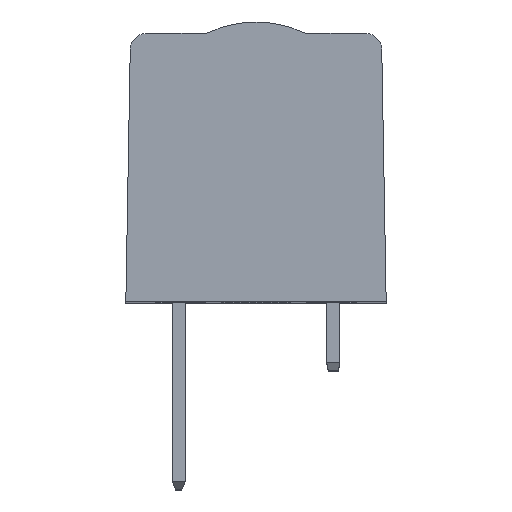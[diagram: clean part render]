
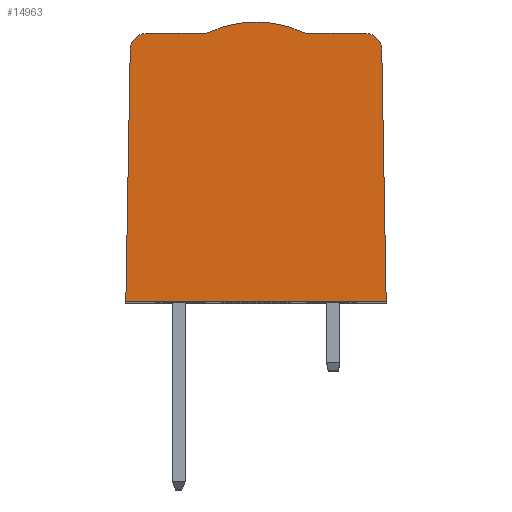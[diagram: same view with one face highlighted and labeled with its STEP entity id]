
A CAD part, top view. The second image highlights one B-rep face of the part: STEP entity #14963.
In plain terms, the highlighted planar face has unit normal (0, 0, 1).
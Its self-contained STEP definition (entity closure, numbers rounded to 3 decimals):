
#144 = VERTEX_POINT ( 'NONE', #3081 ) ;
#190 = DIRECTION ( 'NONE',  ( -1., 0., 0. ) ) ;
#630 = PLANE ( 'NONE',  #12112 ) ;
#755 = CARTESIAN_POINT ( 'NONE',  ( -1.271, 15.5, 0. ) ) ;
#987 = ORIENTED_EDGE ( 'NONE', *, *, #5506, .T. ) ;
#1822 = EDGE_CURVE ( 'NONE', #7877, #6646, #7335, .T. ) ;
#1827 = EDGE_LOOP ( 'NONE', ( #13959, #5640, #14812, #13058, #13020, #2528, #987, #10299 ) ) ;
#1970 = EDGE_CURVE ( 'NONE', #13299, #14522, #12274, .T. ) ;
#2528 = ORIENTED_EDGE ( 'NONE', *, *, #1822, .F. ) ;
#2569 = CARTESIAN_POINT ( 'NONE',  ( -14.729, 15.5, 0. ) ) ;
#2705 = VERTEX_POINT ( 'NONE', #13068 ) ;
#3016 = DIRECTION ( 'NONE',  ( -0.017, -1., 0. ) ) ;
#3081 = CARTESIAN_POINT ( 'NONE',  ( -4.949, 16.5, 0. ) ) ;
#3427 = DIRECTION ( 'NONE',  ( 0., 0., 1. ) ) ;
#3667 = LINE ( 'NONE', #6547, #13489 ) ;
#3696 = CARTESIAN_POINT ( 'NONE',  ( 0., 0., 0. ) ) ;
#4067 = DIRECTION ( 'NONE',  ( -1., 0., 0. ) ) ;
#4092 = EDGE_CURVE ( 'NONE', #2705, #6646, #3667, .T. ) ;
#4693 = CARTESIAN_POINT ( 'NONE',  ( 0., 0., 0. ) ) ;
#4873 = LINE ( 'NONE', #4693, #5643 ) ;
#4896 = EDGE_CURVE ( 'NONE', #7431, #14541, #9213, .T. ) ;
#5506 = EDGE_CURVE ( 'NONE', #7877, #7431, #4873, .T. ) ;
#5523 = EDGE_CURVE ( 'NONE', #144, #13299, #6023, .T. ) ;
#5640 = ORIENTED_EDGE ( 'NONE', *, *, #5523, .T. ) ;
#5643 = VECTOR ( 'NONE', #8371, 1000. ) ;
#6023 = CIRCLE ( 'NONE', #14124, 7. ) ;
#6058 = DIRECTION ( 'NONE',  ( 0., 0., 1. ) ) ;
#6547 = CARTESIAN_POINT ( 'NONE',  ( -15.729, 15.517, 0. ) ) ;
#6646 = VERTEX_POINT ( 'NONE', #13537 ) ;
#6825 = DIRECTION ( 'NONE',  ( 0., 0., 1. ) ) ;
#6873 = CIRCLE ( 'NONE', #10498, 1. ) ;
#7032 = DIRECTION ( 'NONE',  ( -1., 0., 0. ) ) ;
#7173 = DIRECTION ( 'NONE',  ( -1., 0., 0. ) ) ;
#7335 = LINE ( 'NONE', #10913, #11679 ) ;
#7431 = VERTEX_POINT ( 'NONE', #14915 ) ;
#7742 = AXIS2_PLACEMENT_3D ( 'NONE', #755, #6825, #9251 ) ;
#7794 = EDGE_CURVE ( 'NONE', #14522, #2705, #6873, .T. ) ;
#7877 = VERTEX_POINT ( 'NONE', #3696 ) ;
#8013 = DIRECTION ( 'NONE',  ( 0., -1., 0. ) ) ;
#8182 = VECTOR ( 'NONE', #10251, 1000. ) ;
#8357 = FACE_OUTER_BOUND ( 'NONE', #1827, .T. ) ;
#8360 = EDGE_CURVE ( 'NONE', #14541, #144, #10435, .T. ) ;
#8371 = DIRECTION ( 'NONE',  ( -0.017, 1., 0. ) ) ;
#9059 = VECTOR ( 'NONE', #4067, 1000. ) ;
#9213 = CIRCLE ( 'NONE', #7742, 1. ) ;
#9251 = DIRECTION ( 'NONE',  ( -1., 0., 0. ) ) ;
#9704 = CARTESIAN_POINT ( 'NONE',  ( -1.271, 16.5, 0. ) ) ;
#10251 = DIRECTION ( 'NONE',  ( -1., 0., 0. ) ) ;
#10260 = CARTESIAN_POINT ( 'NONE',  ( -8., 0., 0. ) ) ;
#10299 = ORIENTED_EDGE ( 'NONE', *, *, #4896, .T. ) ;
#10435 = LINE ( 'NONE', #15025, #8182 ) ;
#10498 = AXIS2_PLACEMENT_3D ( 'NONE', #2569, #6058, #190 ) ;
#10913 = CARTESIAN_POINT ( 'NONE',  ( 0., 0., 0. ) ) ;
#11243 = CARTESIAN_POINT ( 'NONE',  ( -8., 16.5, 0. ) ) ;
#11488 = DIRECTION ( 'NONE',  ( 0., 0., 1. ) ) ;
#11679 = VECTOR ( 'NONE', #7173, 1000. ) ;
#12005 = CARTESIAN_POINT ( 'NONE',  ( -8., 10.2, 0. ) ) ;
#12093 = CARTESIAN_POINT ( 'NONE',  ( -11.051, 16.5, 0. ) ) ;
#12112 = AXIS2_PLACEMENT_3D ( 'NONE', #10260, #11488, #8013 ) ;
#12274 = LINE ( 'NONE', #11243, #9059 ) ;
#13020 = ORIENTED_EDGE ( 'NONE', *, *, #4092, .T. ) ;
#13058 = ORIENTED_EDGE ( 'NONE', *, *, #7794, .T. ) ;
#13068 = CARTESIAN_POINT ( 'NONE',  ( -15.729, 15.517, 0. ) ) ;
#13299 = VERTEX_POINT ( 'NONE', #12093 ) ;
#13489 = VECTOR ( 'NONE', #3016, 1000. ) ;
#13537 = CARTESIAN_POINT ( 'NONE',  ( -16., 0., 0. ) ) ;
#13959 = ORIENTED_EDGE ( 'NONE', *, *, #8360, .T. ) ;
#14124 = AXIS2_PLACEMENT_3D ( 'NONE', #12005, #3427, #7032 ) ;
#14522 = VERTEX_POINT ( 'NONE', #15214 ) ;
#14541 = VERTEX_POINT ( 'NONE', #9704 ) ;
#14812 = ORIENTED_EDGE ( 'NONE', *, *, #1970, .T. ) ;
#14915 = CARTESIAN_POINT ( 'NONE',  ( -0.271, 15.517, 0. ) ) ;
#14963 = ADVANCED_FACE ( 'NONE', ( #8357 ), #630, .T. ) ;
#15025 = CARTESIAN_POINT ( 'NONE',  ( -8., 16.5, 0. ) ) ;
#15214 = CARTESIAN_POINT ( 'NONE',  ( -14.729, 16.5, 0. ) ) ;
